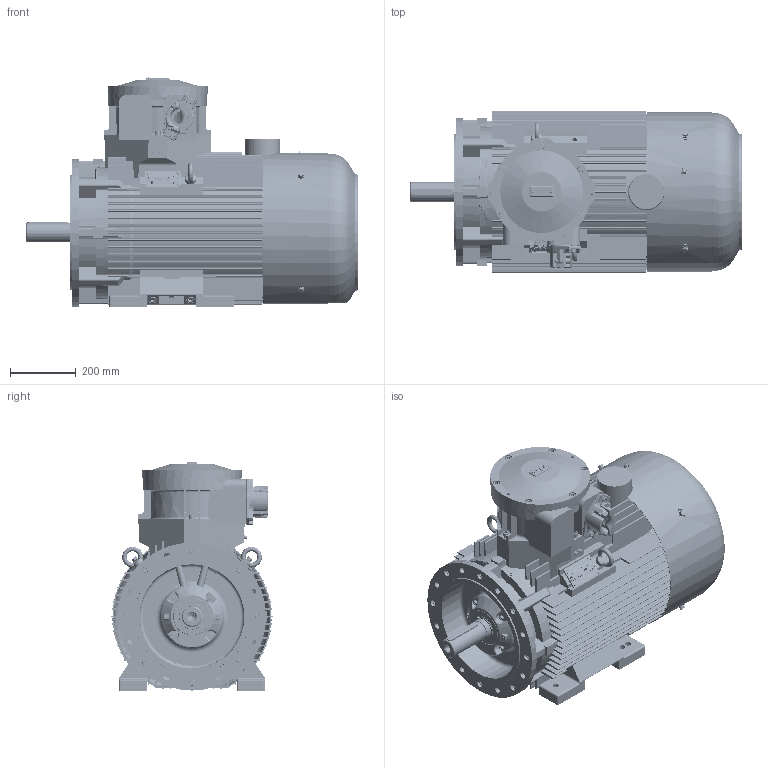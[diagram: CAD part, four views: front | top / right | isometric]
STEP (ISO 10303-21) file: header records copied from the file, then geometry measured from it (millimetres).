
FILE_DESCRIPTION(/* description */ ('Unknown'),/* implementation_level */ '2;1');
FILE_NAME(/* name */ 'Silnik cSTLe225 (S,M)(4-8) - wykonanie OUTSIDE !',/* time_stamp */ '2021-12-23T12:16:26+01:00',/* author */ ('Unknown'),/* organization */ ('Unknown'),/* preprocessor_version */ 'ST-DEVELOPER v16.7',/* originating_system */ 'DEX',/* authorisation */ $);
FILE_SCHEMA (('AUTOMOTIVE_DESIGN {1 0 10303 214 3 1 1}'));
Products named in the file (1): Silnik cSTLe225 (S,M)(4-8) - wykonanie OUTSIDE
Bounding box: 1009.13 x 489.83 x 696.46 mm (x, y, z)
Volume: 32930314.3 mm3; surface area: 7264145.3 mm2
Topology: 3 solids, 93 shells, 8974 faces, 24686 edges, 15887 vertices
Faces by surface type: plane 5663, cylinder 1900, cone 519, torus 376, bspline 354, sphere 162
Full cylindrical faces by diameter (mm): 1.2 x6, 1.6 x2, 2.459 x3, 2.5 x2, 3 x10, 3.1 x4, 3.2 x2, 3.4 x6, 4.773 x1, 4.917 x4, 5 x3, 6 x2, 6.2 x14, 6.3 x1, 6.4 x2, 6.466 x8, 6.5 x1, 6.647 x4, 8 x17, 8.16 x4, 8.376 x2, 8.8 x1, 8.917 x4, 9 x8, 9.853 x26, 10 x20, 10.106 x29, 10.5 x4, 12 x56, 13 x8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
Entity records: 355613 total; most frequent: CARTESIAN_POINT 71950, ORIENTED_EDGE 45686, DIRECTION 43454, EDGE_CURVE 22843, LINE 15944, VECTOR 15944, VERTEX_POINT 15203, AXIS2_PLACEMENT_3D 13755
